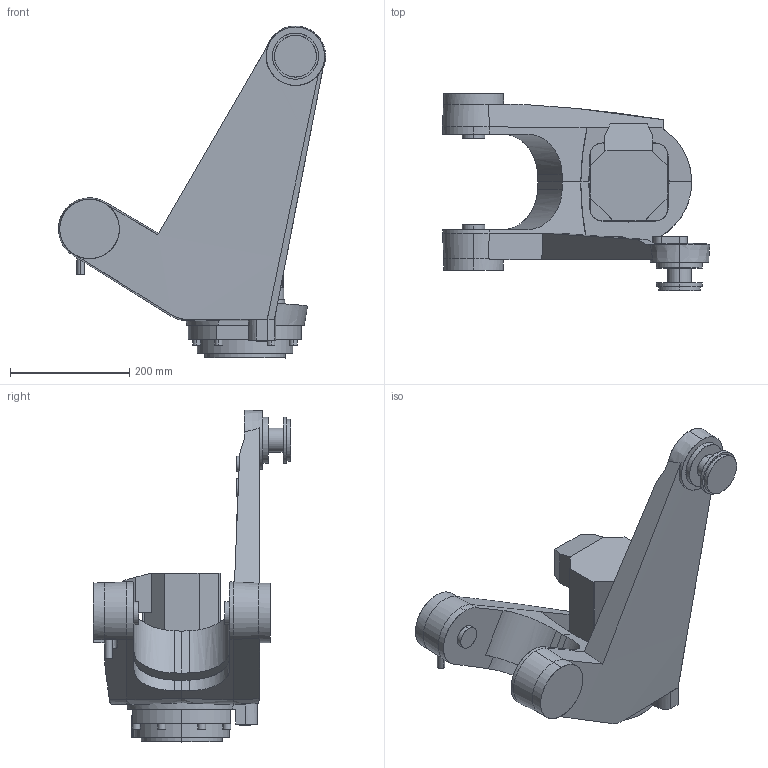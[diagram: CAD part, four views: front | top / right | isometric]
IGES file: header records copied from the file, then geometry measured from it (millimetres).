
Start section: SolidWorks IGES file using analytic representation for surfaces
Global section: file name: C:\Data\Lättmodeller\Nytt\660\IRB660_180-315_IRC5_rev03\IRB660_180-315_IRC5_rev03_IRC5_IGES_j\IRB660_180-315_LINK3b_CAD_rev02.IGS; native system: SolidWorks 2014; preprocessor: SolidWorks 2014; author: seadbov; date: 161202.130143; units: millimetre
Bounding box: 447.36 x 330.5 x 555.77 mm (x, y, z)
Surface area: 642896.7 mm2 (no closed solid volume)
Topology: 0 solids, 0 shells, 259 faces, 5550 edges, 5550 vertices
Faces by surface type: bspline 142, revolution 117
